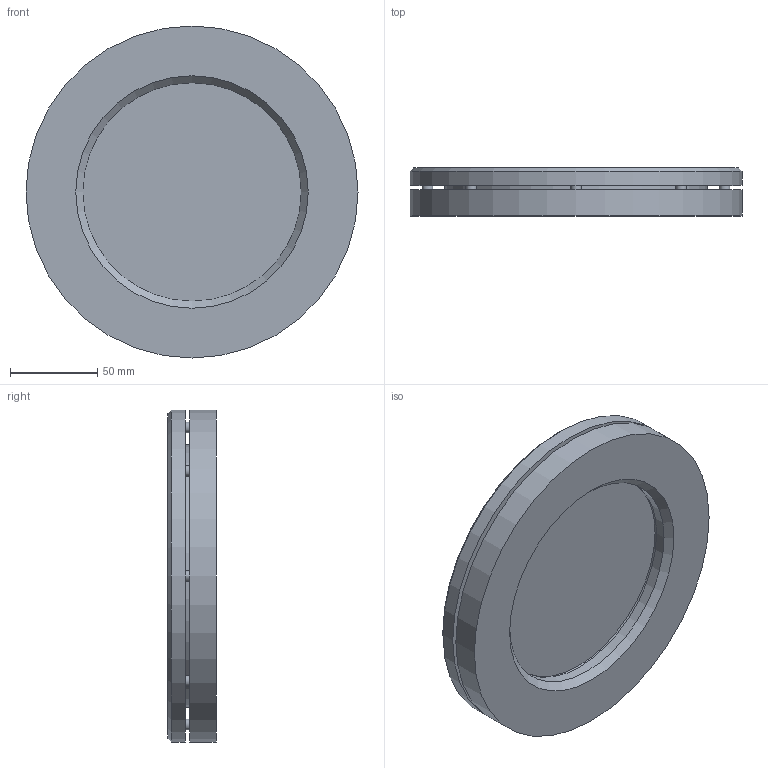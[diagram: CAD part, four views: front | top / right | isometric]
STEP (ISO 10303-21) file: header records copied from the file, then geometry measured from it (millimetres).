
FILE_DESCRIPTION(/* description */ ('Unknown'),/* implementation_level */ '2;1');
FILE_NAME(/* name */ 'Armatur 28120 drucklos DN 100',/* time_stamp */ '2016-01-18T15:46:56+01:00',/* author */ ('Unknown'),/* organization */ ('Unknown'),/* preprocessor_version */ 'ST-DEVELOPER v16.7',/* originating_system */ 'DEX',/* authorisation */ $);
FILE_SCHEMA (('CONFIG_CONTROL_DESIGN'));
Length unit declared in the file: millimetre
Products named in the file (6): 0206.233.38_01; socket head thin cap screw_din_0; 1346.203.38_01; 0863.177.38_01_0; 1775.193.38_01; 1345.203.38_01
Assembly tree (13 placements, depth 2):
  0206.233.38_01
    socket head thin cap screw_din_0  x8
    1346.203.38_01
    0863.177.38_01_0  x2
    1775.193.38_01
    1345.203.38_01
Bounding box: 190 x 27.5 x 190 mm (x, y, z)
Volume: 526320.9 mm3; surface area: 160575.4 mm2
Topology: 13 solids, 13 shells, 244 faces, 516 edges, 316 vertices
Faces by surface type: plane 140, cylinder 59, cone 29, torus 16
Full cylindrical faces by diameter (mm): 4.134 x16, 6 x8, 7 x8, 10 x8, 11 x8, 125 x4, 150 x1, 152 x2, 153 x2, 190 x2
Entity records: 2534 total; most frequent: DIRECTION 422, CARTESIAN_POINT 336, ORIENTED_EDGE 232, AXIS2_PLACEMENT_3D 199, FACE_BOUND 195, EDGE_LOOP 186, EDGE_CURVE 116, VERTEX_POINT 113
